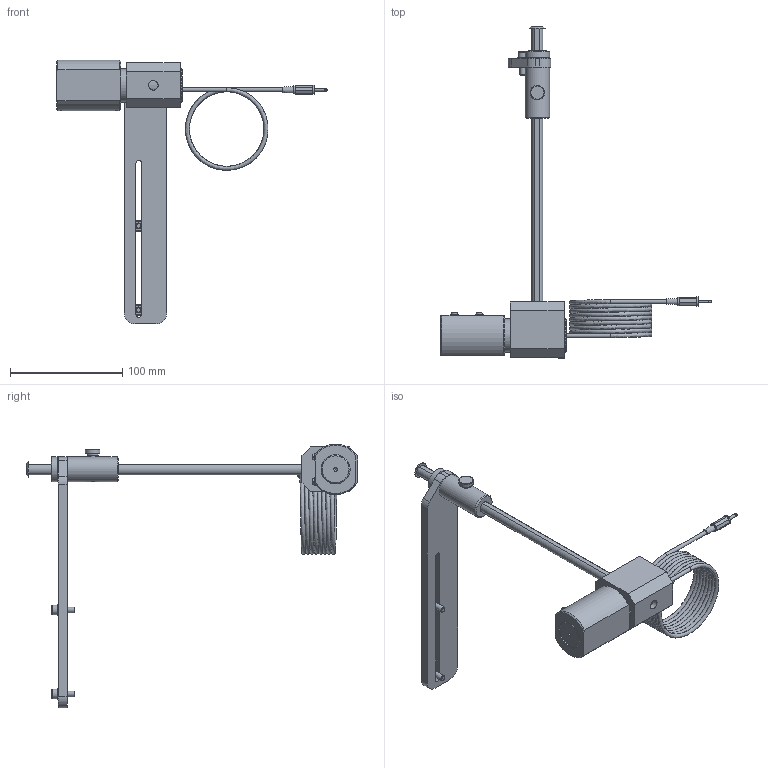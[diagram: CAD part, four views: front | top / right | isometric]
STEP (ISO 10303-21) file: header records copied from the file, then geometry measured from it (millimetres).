
FILE_DESCRIPTION(/* description */ ('Eclairage pour MA 159-...'),/* implementation_level */ '2;1');
FILE_NAME(/* name */ 'S:\Bureau-Technique\Produits Web\eclairages\led\MA 212-95-041.stp',/* time_stamp */ '2019-03-29T11:46:05+01:00',/* author */ ('ms'),/* organization */ ('Marcel Aubert'),/* preprocessor_version */ 'ST-DEVELOPER v17.2',/* originating_system */ 'Autodesk Inventor 2019',/* authorisation */ '');
FILE_SCHEMA (('CONFIG_CONTROL_DESIGN'));
Length unit declared in the file: millimetre
Products named in the file (38): MA 212-95-040; MA 212-95-001; 85-387; 64-113; LE-020-26; 63-018; FL-030-04; 34-106-...; NAL-100-014; RSP-007-75; ACL-040-21; RDL-002; FL-046-02; CAB-041; CNT-021; PLQ-353-01; TIG-001-02; RDL-001; 85-418-01; MA 124-089; 65-129; 61-074; MR-003-15; ISO 1207 - M 3 x 4; ISO 7089 - 3 - 140 HV; VR-003-24; ISO 4026 - M3 x 3; ISO 4026 - M3 x 5; ISO 4026 - M3x6; ISO 4026 - M3 x 8; BRI-057-12; ECR-029; BN 412 - M4; ISO 4762 - M4 x 8; ISO 4762 - M5 x 16; ISO 7089 - 5 - 140 HV; ISO 10642 - M4 x  8; ISO 4026 - M4 x 12
Assembly tree (45 placements, depth 4):
  MA 212-95-040
    MA 212-95-001
      85-387
      64-113
      LE-020-26
      63-018
      FL-030-04
      ISO 4026 - M3 x 3  x3
      34-106-...
        NAL-100-014
        RSP-007-75
        ACL-040-21
        RDL-002
      FL-046-02
      CAB-041
      CNT-021
    PLQ-353-01
    TIG-001-02
    RDL-001
    85-418-01
    MA 124-089
      65-129
      61-074
      MR-003-15
      ISO 1207 - M 3 x 4  x2
      ISO 7089 - 3 - 140 HV  x2
      VR-003-24
      ISO 4026 - M3 x 3
      ISO 4026 - M3 x 5
      ISO 4026 - M3x6
      ISO 4026 - M3 x 8
    BRI-057-12
    ECR-029
    BN 412 - M4
    ISO 4762 - M4 x 8  x2
    ISO 4762 - M5 x 16  x2
    ISO 7089 - 5 - 140 HV  x2
    ISO 10642 - M4 x  8
    ISO 4026 - M4 x 12
Bounding box: 241.4 x 296.3 x 235.57 mm (x, y, z)
Volume: 257965.2 mm3; surface area: 122691.6 mm2
Topology: 42 solids, 42 shells, 464 faces, 1159 edges, 809 vertices
Faces by surface type: plane 252, cylinder 126, cone 64, torus 16, sphere 4, bspline 2
Full cylindrical faces by diameter (mm): 0.5 x4, 0.6 x4, 0.8 x6, 2.3 x1, 2.459 x10, 2.5 x1, 2.693 x2, 3 x10, 3.2 x2, 3.242 x5, 3.3 x1, 3.5 x1, 3.6 x2, 4 x4, 4.3 x2, 5 x3, 5.3 x2, 7 x5, 7.2 x1, 7.53 x1, 8.3 x1, 8.5 x4, 10 x5, 12.93 x1, 13 x1, 14 x3, 15 x2, 16 x4, 17 x2, 17.1 x1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
Entity records: 15079 total; most frequent: CARTESIAN_POINT 4147, DIRECTION 2139, ORIENTED_EDGE 1840, EDGE_CURVE 920, AXIS2_PLACEMENT_3D 872, VERTEX_POINT 659, EDGE_LOOP 487, CIRCLE 408
